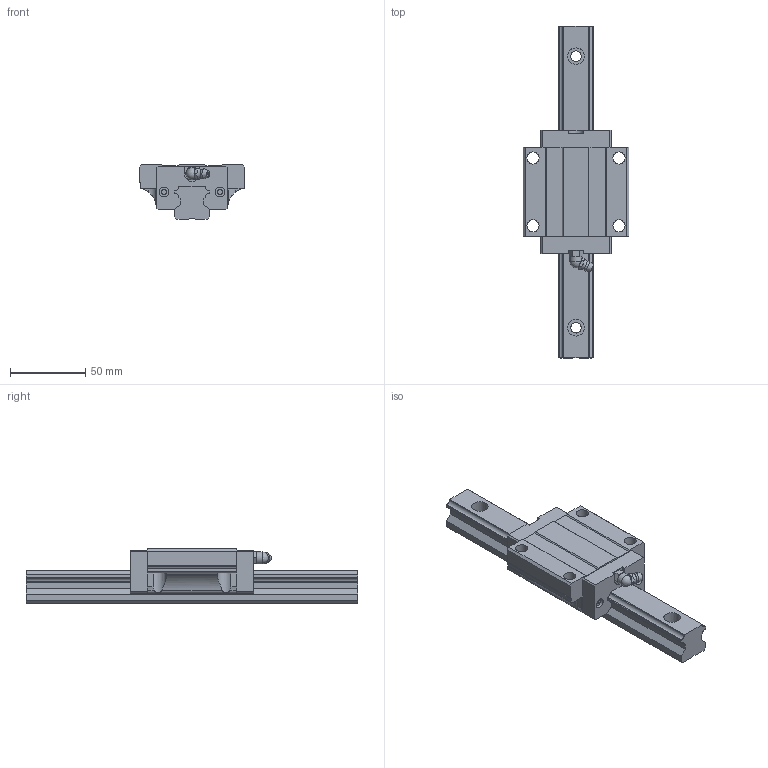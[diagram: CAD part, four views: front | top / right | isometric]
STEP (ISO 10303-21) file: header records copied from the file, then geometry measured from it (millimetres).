
FILE_DESCRIPTION(/* description */ (''),/* implementation_level */ '2;1');
FILE_NAME(/* name */ 'MSA25A',/* time_stamp */ '2005-12-26T15:53:04+08:00',/* author */ (''),/* organization */ (''),/* preprocessor_version */ 'ST-DEVELOPER v9',/* originating_system */ 'UGS - NX 3.0',/* authorisation */ '');
FILE_SCHEMA (('CONFIG_CONTROL_DESIGN'));
Length unit declared in the file: millimetre
Products named in the file (1): kevi37F33gvw
Bounding box: 70 x 220 x 36 mm (x, y, z)
Volume: 196569.6 mm3; surface area: 45805 mm2
Topology: 3 solids, 3 shells, 210 faces, 566 edges, 370 vertices
Faces by surface type: plane 150, cylinder 49, torus 7, sphere 2, cone 1, bspline 1
Full cylindrical faces by diameter (mm): 3.25 x4, 6.5 x4, 7 x4, 8 x5, 11 x4
Entity records: 6722 total; most frequent: CARTESIAN_POINT 1416, DIRECTION 1071, ORIENTED_EDGE 1064, EDGE_CURVE 532, VERTEX_POINT 362, AXIS2_PLACEMENT_3D 359, LINE 353, VECTOR 353
